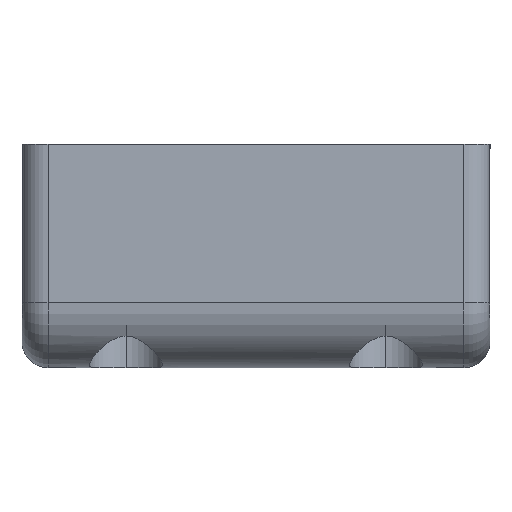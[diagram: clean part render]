
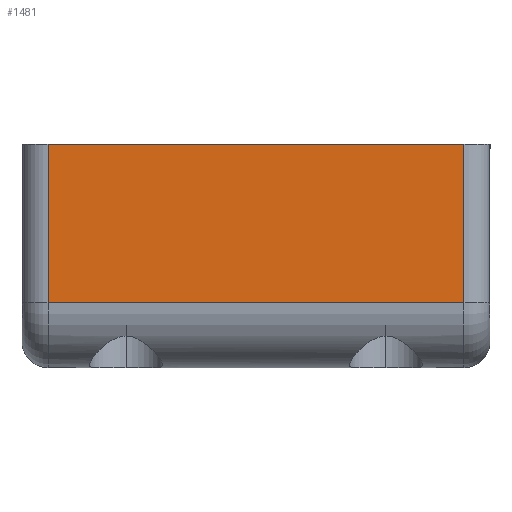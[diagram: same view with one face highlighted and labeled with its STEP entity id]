
A CAD part, left-side view. The second image highlights one B-rep face of the part: STEP entity #1481.
In plain terms, the highlighted planar face has unit normal (-1, 0, 0).
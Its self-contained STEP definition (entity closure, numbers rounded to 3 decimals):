
#17 = VECTOR ( 'NONE', #1237, 1000. ) ;
#61 = LINE ( 'NONE', #196, #1149 ) ;
#84 = EDGE_CURVE ( 'NONE', #1041, #411, #1496, .T. ) ;
#196 = CARTESIAN_POINT ( 'NONE',  ( -23.1, 2., 12.6 ) ) ;
#293 = CARTESIAN_POINT ( 'NONE',  ( -23.1, 36., -12.6 ) ) ;
#365 = CARTESIAN_POINT ( 'NONE',  ( -23.1, 36., -0.4 ) ) ;
#397 = ORIENTED_EDGE ( 'NONE', *, *, #84, .T. ) ;
#411 = VERTEX_POINT ( 'NONE', #1359 ) ;
#449 = EDGE_CURVE ( 'NONE', #1031, #1041, #1009, .T. ) ;
#476 = PLANE ( 'NONE',  #960 ) ;
#544 = VECTOR ( 'NONE', #1259, 1000. ) ;
#570 = EDGE_CURVE ( 'NONE', #411, #1435, #1539, .T. ) ;
#656 = DIRECTION ( 'NONE',  ( 1., 0., 0. ) ) ;
#659 = ORIENTED_EDGE ( 'NONE', *, *, #1302, .T. ) ;
#790 = CARTESIAN_POINT ( 'NONE',  ( -23.1, 2., -0.4 ) ) ;
#802 = DIRECTION ( 'NONE',  ( 0., 0., 1. ) ) ;
#960 = AXIS2_PLACEMENT_3D ( 'NONE', #1401, #656, #1506 ) ;
#970 = EDGE_LOOP ( 'NONE', ( #659, #1338, #397, #1034 ) ) ;
#976 = CARTESIAN_POINT ( 'NONE',  ( -23.1, 2., -12.6 ) ) ;
#1009 = LINE ( 'NONE', #365, #544 ) ;
#1031 = VERTEX_POINT ( 'NONE', #790 ) ;
#1034 = ORIENTED_EDGE ( 'NONE', *, *, #570, .T. ) ;
#1041 = VERTEX_POINT ( 'NONE', #1428 ) ;
#1061 = VECTOR ( 'NONE', #1400, 1000. ) ;
#1149 = VECTOR ( 'NONE', #802, 1000. ) ;
#1237 = DIRECTION ( 'NONE',  ( 0., 0., -1. ) ) ;
#1259 = DIRECTION ( 'NONE',  ( 0., 1., 0. ) ) ;
#1302 = EDGE_CURVE ( 'NONE', #1435, #1031, #61, .T. ) ;
#1338 = ORIENTED_EDGE ( 'NONE', *, *, #449, .T. ) ;
#1359 = CARTESIAN_POINT ( 'NONE',  ( -23.1, 34., -12.6 ) ) ;
#1386 = CARTESIAN_POINT ( 'NONE',  ( -23.1, 34., -12.6 ) ) ;
#1400 = DIRECTION ( 'NONE',  ( 0., -1., 0. ) ) ;
#1401 = CARTESIAN_POINT ( 'NONE',  ( -23.1, 36., -12.6 ) ) ;
#1428 = CARTESIAN_POINT ( 'NONE',  ( -23.1, 34., -0.4 ) ) ;
#1435 = VERTEX_POINT ( 'NONE', #976 ) ;
#1481 = ADVANCED_FACE ( 'NONE', ( #1590 ), #476, .F. ) ;
#1496 = LINE ( 'NONE', #1386, #17 ) ;
#1506 = DIRECTION ( 'NONE',  ( 0., 0., -1. ) ) ;
#1539 = LINE ( 'NONE', #293, #1061 ) ;
#1590 = FACE_OUTER_BOUND ( 'NONE', #970, .T. ) ;
